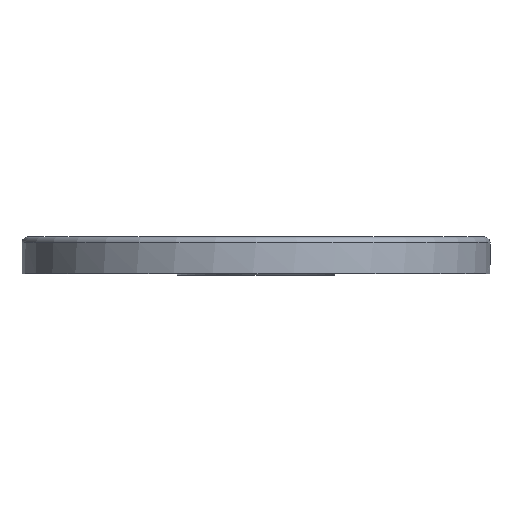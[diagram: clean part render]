
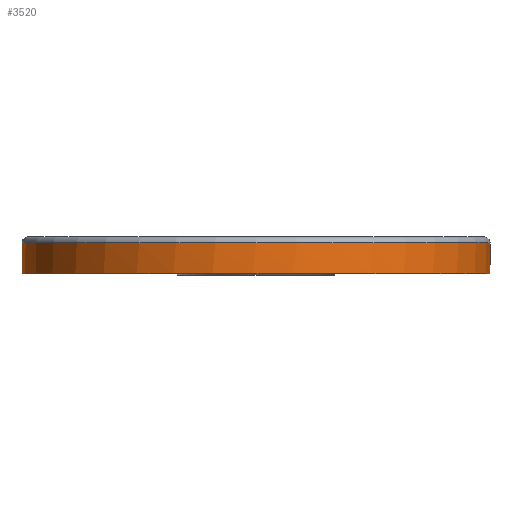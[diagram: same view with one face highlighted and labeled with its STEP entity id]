
A CAD part, left-side view. The second image highlights one B-rep face of the part: STEP entity #3520.
In plain terms, the highlighted cylindrical face has radius 76.5 mm (diameter 153 mm), a full revolution.
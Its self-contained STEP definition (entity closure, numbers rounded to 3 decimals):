
#56=CYLINDRICAL_SURFACE('',#3659,76.5);
#64=CIRCLE('',#3655,76.5);
#65=CIRCLE('',#3656,76.5);
#68=CIRCLE('',#3660,76.5);
#292=B_SPLINE_CURVE_WITH_KNOTS('',3,(#6597,#6598,#6599,#6600,#6601,#6602,
#6603,#6604,#6605,#6606),.UNSPECIFIED.,.F.,.F.,(4,2,2,2,4),(0.226,
0.283,0.339,0.396,0.452),
 .UNSPECIFIED.);
#293=B_SPLINE_CURVE_WITH_KNOTS('',3,(#6607,#6608,#6609,#6610,#6611,#6612,
#6613,#6614,#6615,#6616),.UNSPECIFIED.,.F.,.F.,(4,2,2,2,4),(0.,0.057,
0.113,0.17,0.226),.UNSPECIFIED.);
#591=FACE_OUTER_BOUND('',#793,.T.);
#793=EDGE_LOOP('',(#3041,#3042,#3043,#3044,#3045,#3046,#3047,#3048,#3049));
#1097=LINE('',#6566,#1371);
#1101=LINE('',#6575,#1375);
#1103=LINE('',#6627,#1377);
#1371=VECTOR('',#4128,10.);
#1375=VECTOR('',#4134,10.);
#1377=VECTOR('',#4152,76.5);
#1701=VERTEX_POINT('',#6563);
#1702=VERTEX_POINT('',#6565);
#1705=VERTEX_POINT('',#6572);
#1706=VERTEX_POINT('',#6574);
#1707=VERTEX_POINT('',#6596);
#1708=VERTEX_POINT('',#6618);
#1710=VERTEX_POINT('',#6625);
#2198=EDGE_CURVE('',#1702,#1701,#1097,.T.);
#2202=EDGE_CURVE('',#1706,#1705,#1101,.T.);
#2205=EDGE_CURVE('',#1707,#1706,#292,.T.);
#2206=EDGE_CURVE('',#1701,#1707,#293,.T.);
#2207=EDGE_CURVE('',#1702,#1708,#64,.T.);
#2208=EDGE_CURVE('',#1708,#1705,#65,.T.);
#2211=EDGE_CURVE('',#1710,#1710,#68,.T.);
#2212=EDGE_CURVE('',#1710,#1708,#1103,.T.);
#3041=ORIENTED_EDGE('',*,*,#2211,.F.);
#3042=ORIENTED_EDGE('',*,*,#2212,.T.);
#3043=ORIENTED_EDGE('',*,*,#2207,.F.);
#3044=ORIENTED_EDGE('',*,*,#2198,.T.);
#3045=ORIENTED_EDGE('',*,*,#2206,.T.);
#3046=ORIENTED_EDGE('',*,*,#2205,.T.);
#3047=ORIENTED_EDGE('',*,*,#2202,.T.);
#3048=ORIENTED_EDGE('',*,*,#2208,.F.);
#3049=ORIENTED_EDGE('',*,*,#2212,.F.);
#3520=ADVANCED_FACE('',(#591),#56,.T.);
#3655=AXIS2_PLACEMENT_3D('',#6619,#4140,#4141);
#3656=AXIS2_PLACEMENT_3D('',#6620,#4142,#4143);
#3659=AXIS2_PLACEMENT_3D('',#6624,#4148,#4149);
#3660=AXIS2_PLACEMENT_3D('',#6626,#4150,#4151);
#4128=DIRECTION('',(0.,0.,1.));
#4134=DIRECTION('',(0.,0.,-1.));
#4140=DIRECTION('center_axis',(0.,0.,-1.));
#4141=DIRECTION('ref_axis',(-1.,0.,0.));
#4142=DIRECTION('center_axis',(0.,0.,-1.));
#4143=DIRECTION('ref_axis',(-1.,0.,0.));
#4148=DIRECTION('center_axis',(0.,0.,1.));
#4149=DIRECTION('ref_axis',(-1.,0.,0.));
#4150=DIRECTION('center_axis',(0.,0.,1.));
#4151=DIRECTION('ref_axis',(-1.,0.,0.));
#4152=DIRECTION('',(0.,0.,-1.));
#6563=CARTESIAN_POINT('',(-1.5,-76.485,1.499));
#6565=CARTESIAN_POINT('',(-1.5,-76.485,0.));
#6566=CARTESIAN_POINT('',(-1.5,-76.485,0.));
#6572=CARTESIAN_POINT('',(1.5,-76.485,0.));
#6574=CARTESIAN_POINT('',(1.5,-76.485,1.499));
#6575=CARTESIAN_POINT('',(1.5,-76.485,0.));
#6596=CARTESIAN_POINT('',(0.,-76.5,2.999));
#6597=CARTESIAN_POINT('Ctrl Pts',(0.,-76.5,2.999));
#6598=CARTESIAN_POINT('Ctrl Pts',(0.188,-76.5,2.999));
#6599=CARTESIAN_POINT('Ctrl Pts',(0.389,-76.499,2.962));
#6600=CARTESIAN_POINT('Ctrl Pts',(0.759,-76.496,2.809));
#6601=CARTESIAN_POINT('Ctrl Pts',(0.927,-76.494,2.693));
#6602=CARTESIAN_POINT('Ctrl Pts',(1.194,-76.491,2.427));
#6603=CARTESIAN_POINT('Ctrl Pts',(1.309,-76.489,2.258));
#6604=CARTESIAN_POINT('Ctrl Pts',(1.462,-76.486,1.889));
#6605=CARTESIAN_POINT('Ctrl Pts',(1.5,-76.485,1.688));
#6606=CARTESIAN_POINT('Ctrl Pts',(1.5,-76.485,1.499));
#6607=CARTESIAN_POINT('Ctrl Pts',(-1.5,-76.485,1.499));
#6608=CARTESIAN_POINT('Ctrl Pts',(-1.5,-76.485,1.688));
#6609=CARTESIAN_POINT('Ctrl Pts',(-1.462,-76.486,1.889));
#6610=CARTESIAN_POINT('Ctrl Pts',(-1.309,-76.489,2.258));
#6611=CARTESIAN_POINT('Ctrl Pts',(-1.194,-76.491,2.427));
#6612=CARTESIAN_POINT('Ctrl Pts',(-0.927,-76.494,
2.693));
#6613=CARTESIAN_POINT('Ctrl Pts',(-0.759,-76.496,
2.809));
#6614=CARTESIAN_POINT('Ctrl Pts',(-0.389,-76.499,
2.962));
#6615=CARTESIAN_POINT('Ctrl Pts',(-0.188,-76.5,2.999));
#6616=CARTESIAN_POINT('Ctrl Pts',(0.,-76.5,2.999));
#6618=CARTESIAN_POINT('',(76.5,0.,0.));
#6619=CARTESIAN_POINT('Origin',(0.,0.,0.));
#6620=CARTESIAN_POINT('Origin',(0.,0.,0.));
#6624=CARTESIAN_POINT('Origin',(0.,0.,0.));
#6625=CARTESIAN_POINT('',(76.5,0.,10.));
#6626=CARTESIAN_POINT('Origin',(0.,0.,10.));
#6627=CARTESIAN_POINT('',(76.5,0.,0.));
